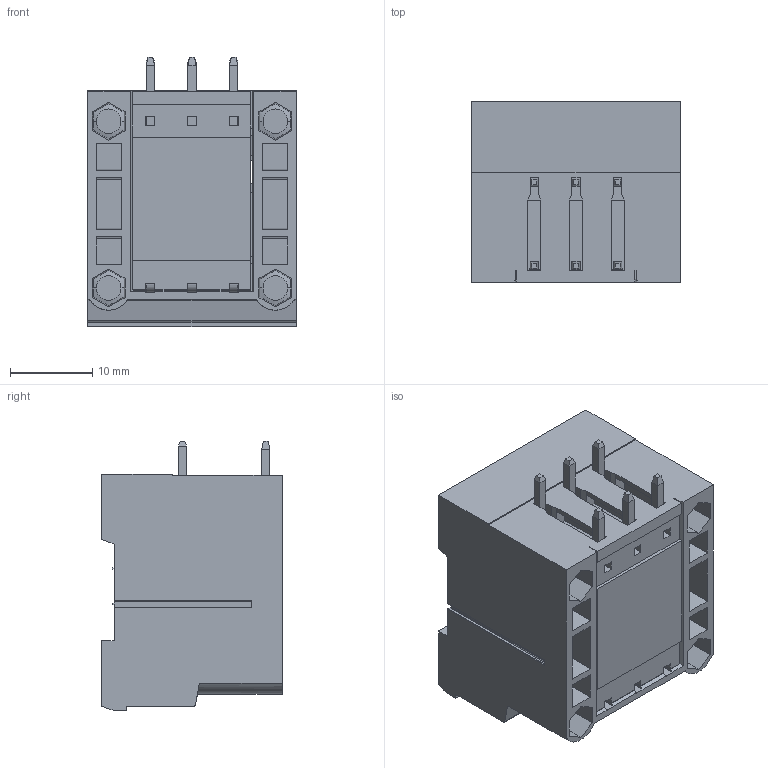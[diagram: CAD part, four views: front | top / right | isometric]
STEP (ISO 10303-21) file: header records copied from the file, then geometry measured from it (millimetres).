
FILE_DESCRIPTION((''),'2;1');
FILE_NAME('3PIN','2022-06-15T',('renkang.li'),(''),'CREO PARAMETRIC BY PTC INC, 2016260','CREO PARAMETRIC BY PTC INC, 2016260','');
FILE_SCHEMA(('CONFIG_CONTROL_DESIGN'));
Length unit declared in the file: millimetre
Products named in the file (1): 3PIN
Bounding box: 25.4 x 22 x 32.84 mm (x, y, z)
Volume: 6264.5 mm3; surface area: 11306.9 mm2
Topology: 1 solids, 5 shells, 939 faces, 2540 edges, 1624 vertices
Faces by surface type: plane 640, cylinder 201, cone 58, bspline 32, torus 8
Entity records: 38729 total; most frequent: CARTESIAN_POINT 15572, ORIENTED_EDGE 5064, DIRECTION 4366, EDGE_CURVE 2532, VECTOR 1920, LINE 1920, VERTEX_POINT 1624, AXIS2_PLACEMENT_3D 1223
